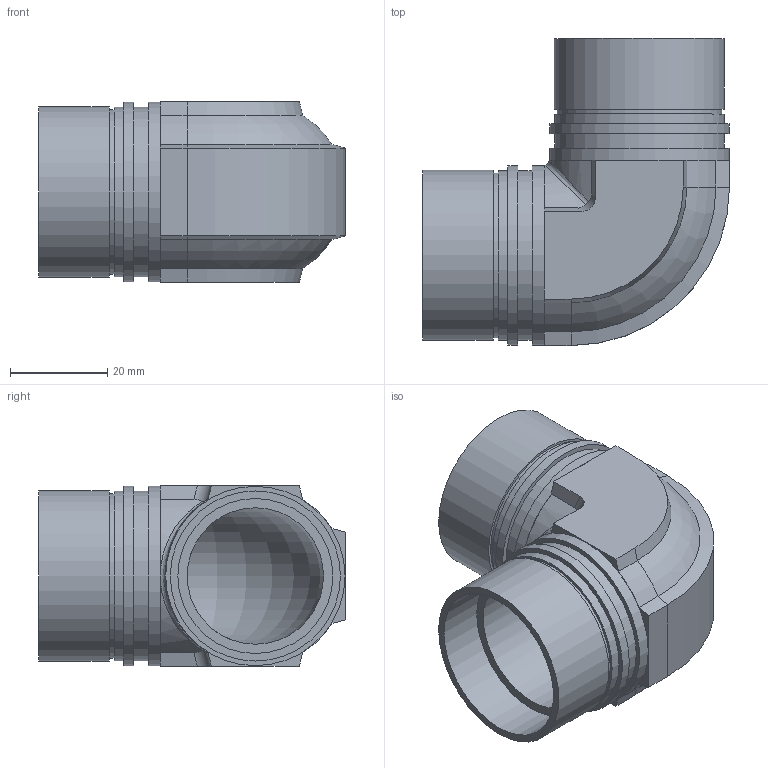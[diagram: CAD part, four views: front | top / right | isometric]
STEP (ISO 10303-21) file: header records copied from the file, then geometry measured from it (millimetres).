
FILE_DESCRIPTION (( 'STEP AP203' ), '1' );
FILE_NAME ('70-31.8UE-P.STEP', '2013-09-19T04:02:31', ( '' ), ( '' ), 'SwSTEP 2.0', 'SolidWorks 2012', '' );
FILE_SCHEMA (( 'CONFIG_CONTROL_DESIGN' ));
Length unit declared in the file: millimetre
Products named in the file (2): 70-31.8UE-P^70-31.8UE-P; 70-31.8UE-P
Assembly tree (1 placements, depth 2):
  70-31.8UE-P
    70-31.8UE-P^70-31.8UE-P
Bounding box: 63 x 63 x 37 mm (x, y, z)
Volume: 31577.9 mm3; surface area: 18999.7 mm2
Topology: 1 solids, 1 shells, 67 faces, 143 edges, 92 vertices
Faces by surface type: plane 32, cylinder 27, cone 4, torus 3, bspline 1
Full cylindrical faces by diameter (mm): 28 x2, 31.8 x2, 33.75 x2, 34.8 x4, 34.9 x2, 36.8 x4
Entity records: 2038 total; most frequent: CARTESIAN_POINT 458, DIRECTION 300, ORIENTED_EDGE 250, EDGE_CURVE 125, AXIS2_PLACEMENT_3D 122, EDGE_LOOP 99, VERTEX_POINT 90, FACE_OUTER_BOUND 83
